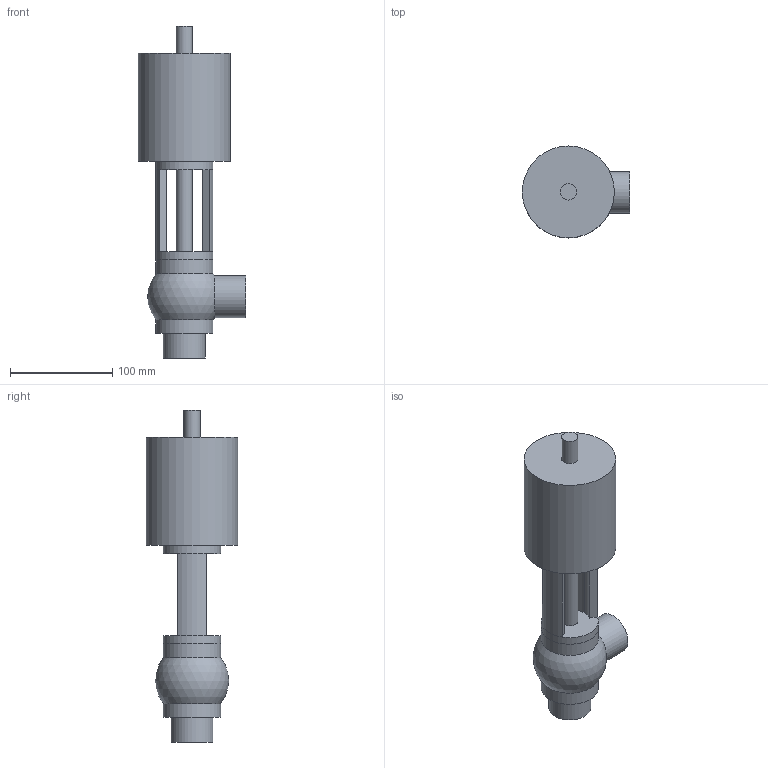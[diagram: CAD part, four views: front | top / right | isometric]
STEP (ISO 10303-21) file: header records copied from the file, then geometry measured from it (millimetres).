
FILE_DESCRIPTION(('FreeCAD Model'),'2;1');
FILE_NAME('/home/martin/Documents/proyect/valves/stp/valve_L_DN-40.step' ,'2018-01-12T21:56:37',('Author'),(''), 'Open CASCADE STEP processor 6.8','FreeCAD','Unknown');
FILE_SCHEMA(('AUTOMOTIVE_DESIGN_CC2 { 1 2 10303 214 -1 1 5 4 }'));
Length unit declared in the file: millimetre
Products named in the file (3): ASSEMBLY; valve_L_DN-40-body; valve_L_DN-40-head
Assembly tree (2 placements, depth 2):
  ASSEMBLY
    valve_L_DN-40-body
    valve_L_DN-40-head
Bounding box: 105 x 90 x 325 mm (x, y, z)
Volume: 872453.5 mm3; surface area: 107289.1 mm2
Topology: 2 solids, 2 shells, 33 faces, 74 edges, 46 vertices
Faces by surface type: cylinder 16, plane 15, sphere 2
Full cylindrical faces by diameter (mm): 16 x2, 38 x2, 41 x2, 56 x4, 90 x1
Entity records: 2125 total; most frequent: CARTESIAN_POINT 421, DIRECTION 324, ORIENTED_EDGE 146, PCURVE 146, DEFINITIONAL_REPRESENTATION 146, LINE 135, VECTOR 135, AXIS2_PLACEMENT_3D 81
